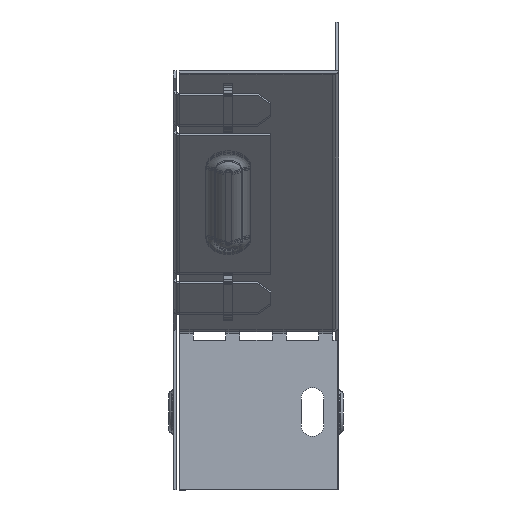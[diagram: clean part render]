
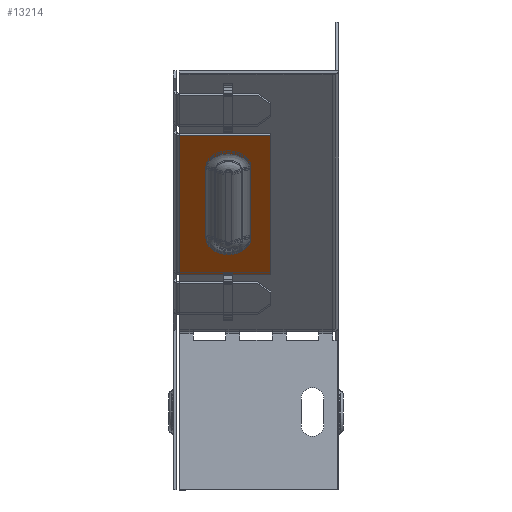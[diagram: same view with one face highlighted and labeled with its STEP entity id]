
A CAD part, left-side view. The second image highlights one B-rep face of the part: STEP entity #13214.
In plain terms, the highlighted planar face has unit normal (-0.707, 0, -0.707).
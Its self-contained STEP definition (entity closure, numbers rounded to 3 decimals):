
#45 = DIRECTION ( 'NONE',  ( -0.707, 0., 0.707 ) ) ;
#86 = CARTESIAN_POINT ( 'NONE',  ( -229.993, 40.017, -66.685 ) ) ;
#1280 = ORIENTED_EDGE ( 'NONE', *, *, #9218, .F. ) ;
#1575 = EDGE_CURVE ( 'NONE', #4209, #18483, #2061, .T. ) ;
#2061 = CIRCLE ( 'NONE', #8807, 6.917 ) ;
#2478 = CARTESIAN_POINT ( 'NONE',  ( -219.022, 20., -77.656 ) ) ;
#4209 = VERTEX_POINT ( 'NONE', #15905 ) ;
#5088 = VERTEX_POINT ( 'NONE', #12735 ) ;
#5393 = VERTEX_POINT ( 'NONE', #14864 ) ;
#5482 = PLANE ( 'NONE',  #6084 ) ;
#5766 = CIRCLE ( 'NONE', #7358, 6.917 ) ;
#5912 = CARTESIAN_POINT ( 'NONE',  ( -261.823, 20., -34.855 ) ) ;
#6033 = CARTESIAN_POINT ( 'NONE',  ( -140.837, 20., -155.841 ) ) ;
#6078 = VECTOR ( 'NONE', #15151, 1000. ) ;
#6084 = AXIS2_PLACEMENT_3D ( 'NONE', #17585, #14180, #8561 ) ;
#6649 = VECTOR ( 'NONE', #45, 1000. ) ;
#6951 = VERTEX_POINT ( 'NONE', #17365 ) ;
#7070 = LINE ( 'NONE', #11007, #17984 ) ;
#7358 = AXIS2_PLACEMENT_3D ( 'NONE', #17801, #14939, #16432 ) ;
#7392 = FACE_BOUND ( 'NONE', #17722, .T. ) ;
#8386 = LINE ( 'NONE', #5912, #10289 ) ;
#8561 = DIRECTION ( 'NONE',  ( 0.707, 0., -0.707 ) ) ;
#8807 = AXIS2_PLACEMENT_3D ( 'NONE', #12053, #16549, #13573 ) ;
#8927 = EDGE_CURVE ( 'NONE', #6951, #11217, #10516, .T. ) ;
#9218 = EDGE_CURVE ( 'NONE', #6951, #5393, #7070, .T. ) ;
#10136 = ORIENTED_EDGE ( 'NONE', *, *, #8927, .T. ) ;
#10289 = VECTOR ( 'NONE', #14836, 1000. ) ;
#10516 = LINE ( 'NONE', #11208, #17918 ) ;
#10670 = ORIENTED_EDGE ( 'NONE', *, *, #18146, .T. ) ;
#10830 = EDGE_CURVE ( 'NONE', #18483, #5088, #13762, .T. ) ;
#10874 = FACE_OUTER_BOUND ( 'NONE', #12481, .T. ) ;
#11006 = ORIENTED_EDGE ( 'NONE', *, *, #13937, .T. ) ;
#11007 = CARTESIAN_POINT ( 'NONE',  ( -278.087, 48.2, -18.591 ) ) ;
#11208 = CARTESIAN_POINT ( 'NONE',  ( -219.022, 20., -77.656 ) ) ;
#11217 = VERTEX_POINT ( 'NONE', #2478 ) ;
#12053 = CARTESIAN_POINT ( 'NONE',  ( -251.206, 33.1, -45.472 ) ) ;
#12065 = CARTESIAN_POINT ( 'NONE',  ( -229.993, 26.183, -66.685 ) ) ;
#12227 = VERTEX_POINT ( 'NONE', #18911 ) ;
#12481 = EDGE_LOOP ( 'NONE', ( #1280, #10136, #11006, #15761 ) ) ;
#12735 = CARTESIAN_POINT ( 'NONE',  ( -229.993, 26.183, -66.685 ) ) ;
#12958 = ORIENTED_EDGE ( 'NONE', *, *, #18972, .T. ) ;
#13214 = ADVANCED_FACE ( 'NONE', ( #7392, #10874 ), #5482, .F. ) ;
#13557 = VERTEX_POINT ( 'NONE', #14028 ) ;
#13573 = DIRECTION ( 'NONE',  ( 0.5, -0.707, -0.5 ) ) ;
#13698 = ORIENTED_EDGE ( 'NONE', *, *, #1575, .T. ) ;
#13762 = LINE ( 'NONE', #12065, #15916 ) ;
#13836 = ORIENTED_EDGE ( 'NONE', *, *, #10830, .T. ) ;
#13937 = EDGE_CURVE ( 'NONE', #11217, #12227, #19194, .T. ) ;
#14028 = CARTESIAN_POINT ( 'NONE',  ( -229.993, 40.017, -66.685 ) ) ;
#14168 = DIRECTION ( 'NONE',  ( 0., -1., 0. ) ) ;
#14180 = DIRECTION ( 'NONE',  ( 0.707, 0., 0.707 ) ) ;
#14287 = LINE ( 'NONE', #86, #6078 ) ;
#14836 = DIRECTION ( 'NONE',  ( 0., 1., 0. ) ) ;
#14864 = CARTESIAN_POINT ( 'NONE',  ( -261.823, 48.2, -34.855 ) ) ;
#14939 = DIRECTION ( 'NONE',  ( 0.707, 0., 0.707 ) ) ;
#15151 = DIRECTION ( 'NONE',  ( -0.707, 0., 0.707 ) ) ;
#15761 = ORIENTED_EDGE ( 'NONE', *, *, #16120, .T. ) ;
#15905 = CARTESIAN_POINT ( 'NONE',  ( -251.206, 40.017, -45.472 ) ) ;
#15916 = VECTOR ( 'NONE', #16682, 1000. ) ;
#15969 = DIRECTION ( 'NONE',  ( -0.707, 0., 0.707 ) ) ;
#16120 = EDGE_CURVE ( 'NONE', #12227, #5393, #8386, .T. ) ;
#16432 = DIRECTION ( 'NONE',  ( 0.5, -0.707, -0.5 ) ) ;
#16549 = DIRECTION ( 'NONE',  ( 0.707, 0., 0.707 ) ) ;
#16682 = DIRECTION ( 'NONE',  ( 0.707, 0., -0.707 ) ) ;
#17365 = CARTESIAN_POINT ( 'NONE',  ( -219.022, 48.2, -77.656 ) ) ;
#17585 = CARTESIAN_POINT ( 'NONE',  ( -140.837, 50., -155.841 ) ) ;
#17722 = EDGE_LOOP ( 'NONE', ( #13836, #12958, #10670, #13698 ) ) ;
#17801 = CARTESIAN_POINT ( 'NONE',  ( -229.993, 33.1, -66.685 ) ) ;
#17918 = VECTOR ( 'NONE', #14168, 1000. ) ;
#17984 = VECTOR ( 'NONE', #15969, 1000. ) ;
#18146 = EDGE_CURVE ( 'NONE', #13557, #4209, #14287, .T. ) ;
#18483 = VERTEX_POINT ( 'NONE', #19428 ) ;
#18911 = CARTESIAN_POINT ( 'NONE',  ( -261.823, 20., -34.855 ) ) ;
#18972 = EDGE_CURVE ( 'NONE', #5088, #13557, #5766, .T. ) ;
#19194 = LINE ( 'NONE', #6033, #6649 ) ;
#19428 = CARTESIAN_POINT ( 'NONE',  ( -251.206, 26.183, -45.472 ) ) ;
